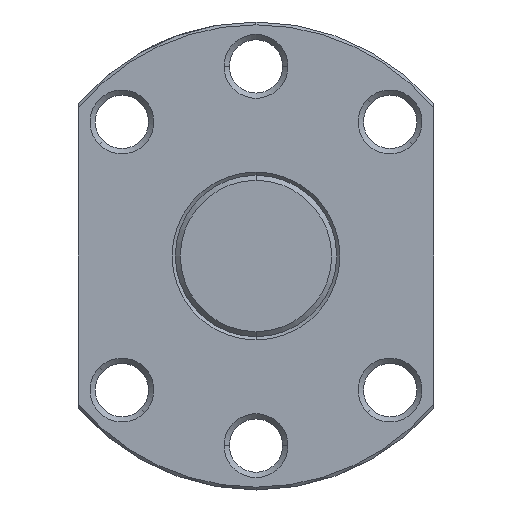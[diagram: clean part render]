
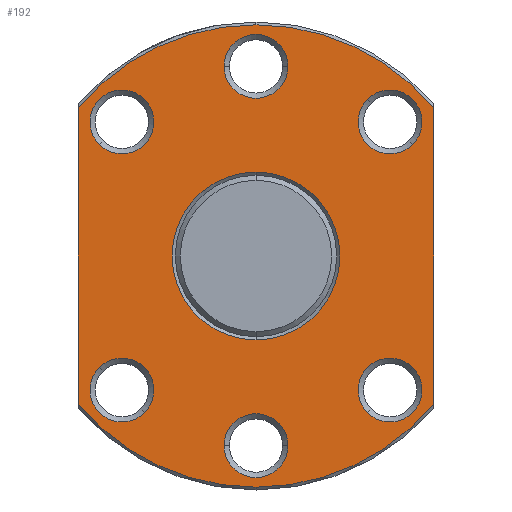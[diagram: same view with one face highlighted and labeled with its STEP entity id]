
A CAD part, left-side view. The second image highlights one B-rep face of the part: STEP entity #192.
In plain terms, the highlighted planar face has unit normal (-1, 0, 0).
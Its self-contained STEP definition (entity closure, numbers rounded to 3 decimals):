
#192=ADVANCED_FACE('',(#348,#349,#350,#351,#352,#353,#354,#355),#356,.T.);
#348=FACE_BOUND('',#521,.T.);
#349=FACE_OUTER_BOUND('',#522,.T.);
#350=FACE_BOUND('',#523,.T.);
#351=FACE_BOUND('',#524,.T.);
#352=FACE_BOUND('',#525,.T.);
#353=FACE_BOUND('',#526,.T.);
#354=FACE_BOUND('',#527,.T.);
#355=FACE_BOUND('',#528,.T.);
#356=PLANE('',#529);
#521=EDGE_LOOP('',(#1051,#1052));
#522=EDGE_LOOP('',(#1053,#1054,#1055,#1056,#1057,#1058));
#523=EDGE_LOOP('',(#1059,#1060));
#524=EDGE_LOOP('',(#1061,#1062));
#525=EDGE_LOOP('',(#1063,#1064));
#526=EDGE_LOOP('',(#1065,#1066));
#527=EDGE_LOOP('',(#1067,#1068));
#528=EDGE_LOOP('',(#1069,#1070));
#529=AXIS2_PLACEMENT_3D('',#1071,#1072,#1073);
#1051=ORIENTED_EDGE('',*,*,#1256,.T.);
#1052=ORIENTED_EDGE('',*,*,#1236,.T.);
#1053=ORIENTED_EDGE('',*,*,#1257,.T.);
#1054=ORIENTED_EDGE('',*,*,#1297,.F.);
#1055=ORIENTED_EDGE('',*,*,#1164,.F.);
#1056=ORIENTED_EDGE('',*,*,#1278,.T.);
#1057=ORIENTED_EDGE('',*,*,#1226,.F.);
#1058=ORIENTED_EDGE('',*,*,#1277,.F.);
#1059=ORIENTED_EDGE('',*,*,#1281,.T.);
#1060=ORIENTED_EDGE('',*,*,#1216,.T.);
#1061=ORIENTED_EDGE('',*,*,#1284,.T.);
#1062=ORIENTED_EDGE('',*,*,#1206,.T.);
#1063=ORIENTED_EDGE('',*,*,#1287,.T.);
#1064=ORIENTED_EDGE('',*,*,#1196,.T.);
#1065=ORIENTED_EDGE('',*,*,#1290,.T.);
#1066=ORIENTED_EDGE('',*,*,#1186,.T.);
#1067=ORIENTED_EDGE('',*,*,#1293,.T.);
#1068=ORIENTED_EDGE('',*,*,#1176,.T.);
#1069=ORIENTED_EDGE('',*,*,#1296,.T.);
#1070=ORIENTED_EDGE('',*,*,#1166,.T.);
#1071=CARTESIAN_POINT('',(25.0,0.0,14.325));
#1072=DIRECTION('',(-1.0,0.0,0.));
#1073=DIRECTION('',(0.,0.0,-1.0));
#1164=EDGE_CURVE('',#1362,#1360,#1364,.T.);
#1166=EDGE_CURVE('',#1368,#1365,#1369,.T.);
#1176=EDGE_CURVE('',#1386,#1383,#1387,.T.);
#1186=EDGE_CURVE('',#1404,#1401,#1405,.T.);
#1196=EDGE_CURVE('',#1422,#1419,#1423,.T.);
#1206=EDGE_CURVE('',#1440,#1437,#1441,.T.);
#1216=EDGE_CURVE('',#1458,#1455,#1459,.T.);
#1226=EDGE_CURVE('',#1473,#1476,#1477,.T.);
#1236=EDGE_CURVE('',#1494,#1491,#1495,.T.);
#1256=EDGE_CURVE('',#1491,#1494,#1525,.T.);
#1257=EDGE_CURVE('',#1526,#1527,#1528,.T.);
#1277=EDGE_CURVE('',#1526,#1473,#1554,.T.);
#1278=EDGE_CURVE('',#1362,#1476,#1555,.T.);
#1281=EDGE_CURVE('',#1455,#1458,#1558,.T.);
#1284=EDGE_CURVE('',#1437,#1440,#1561,.T.);
#1287=EDGE_CURVE('',#1419,#1422,#1564,.T.);
#1290=EDGE_CURVE('',#1401,#1404,#1567,.T.);
#1293=EDGE_CURVE('',#1383,#1386,#1570,.T.);
#1296=EDGE_CURVE('',#1365,#1368,#1573,.T.);
#1297=EDGE_CURVE('',#1360,#1527,#1574,.T.);
#1360=VERTEX_POINT('',#1661);
#1362=VERTEX_POINT('',#1664);
#1364=CIRCLE('',#1675,28.65);
#1365=VERTEX_POINT('',#1676);
#1368=VERTEX_POINT('',#1680);
#1369=CIRCLE('',#1681,3.96);
#1383=VERTEX_POINT('',#1700);
#1386=VERTEX_POINT('',#1704);
#1387=CIRCLE('',#1705,3.96);
#1401=VERTEX_POINT('',#1724);
#1404=VERTEX_POINT('',#1728);
#1405=CIRCLE('',#1729,3.96);
#1419=VERTEX_POINT('',#1748);
#1422=VERTEX_POINT('',#1752);
#1423=CIRCLE('',#1753,3.96);
#1437=VERTEX_POINT('',#1772);
#1440=VERTEX_POINT('',#1776);
#1441=CIRCLE('',#1777,3.96);
#1455=VERTEX_POINT('',#1796);
#1458=VERTEX_POINT('',#1800);
#1459=CIRCLE('',#1801,3.96);
#1473=VERTEX_POINT('',#1820);
#1476=VERTEX_POINT('',#1824);
#1477=CIRCLE('',#1825,28.65);
#1491=VERTEX_POINT('',#1860);
#1494=VERTEX_POINT('',#1864);
#1495=CIRCLE('',#1865,10.4);
#1525=CIRCLE('',#1971,10.4);
#1526=VERTEX_POINT('',#1972);
#1527=VERTEX_POINT('',#1973);
#1528=LINE('',#1974,#1975);
#1554=CIRCLE('',#2041,28.65);
#1555=LINE('',#2042,#2043);
#1558=CIRCLE('',#2046,3.96);
#1561=CIRCLE('',#2049,3.96);
#1564=CIRCLE('',#2052,3.96);
#1567=CIRCLE('',#2055,3.96);
#1570=CIRCLE('',#2058,3.96);
#1573=CIRCLE('',#2061,3.96);
#1574=CIRCLE('',#2062,28.65);
#1661=CARTESIAN_POINT('',(25.0,0.,-28.65));
#1664=CARTESIAN_POINT('',(25.0,-22.0,-18.353));
#1675=AXIS2_PLACEMENT_3D('',#2133,#2134,#2135);
#1676=CARTESIAN_POINT('',(25.0,-13.817,19.417));
#1680=CARTESIAN_POINT('',(25.0,-19.417,13.817));
#1681=AXIS2_PLACEMENT_3D('',#2137,#2138,#2139);
#1700=CARTESIAN_POINT('',(25.0,3.96,23.5));
#1704=CARTESIAN_POINT('',(25.0,-3.96,23.5));
#1705=AXIS2_PLACEMENT_3D('',#2155,#2156,#2157);
#1724=CARTESIAN_POINT('',(25.0,19.417,13.817));
#1728=CARTESIAN_POINT('',(25.0,13.817,19.417));
#1729=AXIS2_PLACEMENT_3D('',#2173,#2174,#2175);
#1748=CARTESIAN_POINT('',(25.0,13.817,-19.417));
#1752=CARTESIAN_POINT('',(25.0,19.417,-13.817));
#1753=AXIS2_PLACEMENT_3D('',#2191,#2192,#2193);
#1772=CARTESIAN_POINT('',(25.0,-3.96,-23.5));
#1776=CARTESIAN_POINT('',(25.0,3.96,-23.5));
#1777=AXIS2_PLACEMENT_3D('',#2209,#2210,#2211);
#1796=CARTESIAN_POINT('',(25.0,-19.417,-13.817));
#1800=CARTESIAN_POINT('',(25.0,-13.817,-19.417));
#1801=AXIS2_PLACEMENT_3D('',#2227,#2228,#2229);
#1820=CARTESIAN_POINT('',(25.0,0.,28.65));
#1824=CARTESIAN_POINT('',(25.0,-22.0,18.353));
#1825=AXIS2_PLACEMENT_3D('',#2245,#2246,#2247);
#1860=CARTESIAN_POINT('',(25.0,0.0,10.4));
#1864=CARTESIAN_POINT('',(25.0,0.,-10.4));
#1865=AXIS2_PLACEMENT_3D('',#2261,#2262,#2263);
#1971=AXIS2_PLACEMENT_3D('',#2297,#2298,#2299);
#1972=CARTESIAN_POINT('',(25.0,22.0,18.353));
#1973=CARTESIAN_POINT('',(25.0,22.0,-18.353));
#1974=CARTESIAN_POINT('',(25.0,22.0,7.163));
#1975=VECTOR('',#2300,1.0);
#2041=AXIS2_PLACEMENT_3D('',#2338,#2339,#2340);
#2042=CARTESIAN_POINT('',(25.0,-22.0,7.163));
#2043=VECTOR('',#2341,1.0);
#2046=AXIS2_PLACEMENT_3D('',#2348,#2349,#2350);
#2049=AXIS2_PLACEMENT_3D('',#2357,#2358,#2359);
#2052=AXIS2_PLACEMENT_3D('',#2366,#2367,#2368);
#2055=AXIS2_PLACEMENT_3D('',#2375,#2376,#2377);
#2058=AXIS2_PLACEMENT_3D('',#2384,#2385,#2386);
#2061=AXIS2_PLACEMENT_3D('',#2393,#2394,#2395);
#2062=AXIS2_PLACEMENT_3D('',#2396,#2397,#2398);
#2133=CARTESIAN_POINT('',(25.0,0.0,0.0));
#2134=DIRECTION('',(1.0,0.0,-0.0));
#2135=DIRECTION('',(0.0,0.0,1.0));
#2137=CARTESIAN_POINT('',(25.0,-16.617,16.617));
#2138=DIRECTION('',(1.0,0.0,0.));
#2139=DIRECTION('',(0.,0.707,0.707));
#2155=CARTESIAN_POINT('',(25.0,0.0,23.5));
#2156=DIRECTION('',(1.0,0.0,0.));
#2157=DIRECTION('',(0.0,1.0,0.0));
#2173=CARTESIAN_POINT('',(25.0,16.617,16.617));
#2174=DIRECTION('',(1.0,0.0,0.));
#2175=DIRECTION('',(0.,0.707,-0.707));
#2191=CARTESIAN_POINT('',(25.0,16.617,-16.617));
#2192=DIRECTION('',(1.0,0.0,0.));
#2193=DIRECTION('',(0.,-0.707,-0.707));
#2209=CARTESIAN_POINT('',(25.0,0.0,-23.5));
#2210=DIRECTION('',(1.0,0.0,0.));
#2211=DIRECTION('',(0.0,-1.0,0.0));
#2227=CARTESIAN_POINT('',(25.0,-16.617,-16.617));
#2228=DIRECTION('',(1.0,0.0,0.));
#2229=DIRECTION('',(0.,-0.707,0.707));
#2245=CARTESIAN_POINT('',(25.0,0.0,0.0));
#2246=DIRECTION('',(1.0,0.0,-0.0));
#2247=DIRECTION('',(0.0,0.0,1.0));
#2261=CARTESIAN_POINT('',(25.0,0.0,0.0));
#2262=DIRECTION('',(1.0,0.0,0.));
#2263=DIRECTION('',(0.,0.0,1.0));
#2297=CARTESIAN_POINT('',(25.0,0.0,0.0));
#2298=DIRECTION('',(1.0,0.0,0.));
#2299=DIRECTION('',(0.,0.0,1.0));
#2300=DIRECTION('',(0.,0.0,-1.0));
#2338=CARTESIAN_POINT('',(25.0,0.0,0.0));
#2339=DIRECTION('',(1.0,0.0,-0.0));
#2340=DIRECTION('',(0.0,0.0,1.0));
#2341=DIRECTION('',(0.,0.0,1.0));
#2348=CARTESIAN_POINT('',(25.0,-16.617,-16.617));
#2349=DIRECTION('',(1.0,0.0,0.));
#2350=DIRECTION('',(0.,-0.707,0.707));
#2357=CARTESIAN_POINT('',(25.0,0.0,-23.5));
#2358=DIRECTION('',(1.0,0.0,0.));
#2359=DIRECTION('',(0.0,-1.0,0.0));
#2366=CARTESIAN_POINT('',(25.0,16.617,-16.617));
#2367=DIRECTION('',(1.0,0.0,0.));
#2368=DIRECTION('',(0.,-0.707,-0.707));
#2375=CARTESIAN_POINT('',(25.0,16.617,16.617));
#2376=DIRECTION('',(1.0,0.0,0.));
#2377=DIRECTION('',(0.,0.707,-0.707));
#2384=CARTESIAN_POINT('',(25.0,0.0,23.5));
#2385=DIRECTION('',(1.0,0.0,0.));
#2386=DIRECTION('',(0.0,1.0,0.0));
#2393=CARTESIAN_POINT('',(25.0,-16.617,16.617));
#2394=DIRECTION('',(1.0,0.0,0.));
#2395=DIRECTION('',(0.,0.707,0.707));
#2396=CARTESIAN_POINT('',(25.0,0.0,0.0));
#2397=DIRECTION('',(1.0,0.0,-0.0));
#2398=DIRECTION('',(0.0,0.0,1.0));
